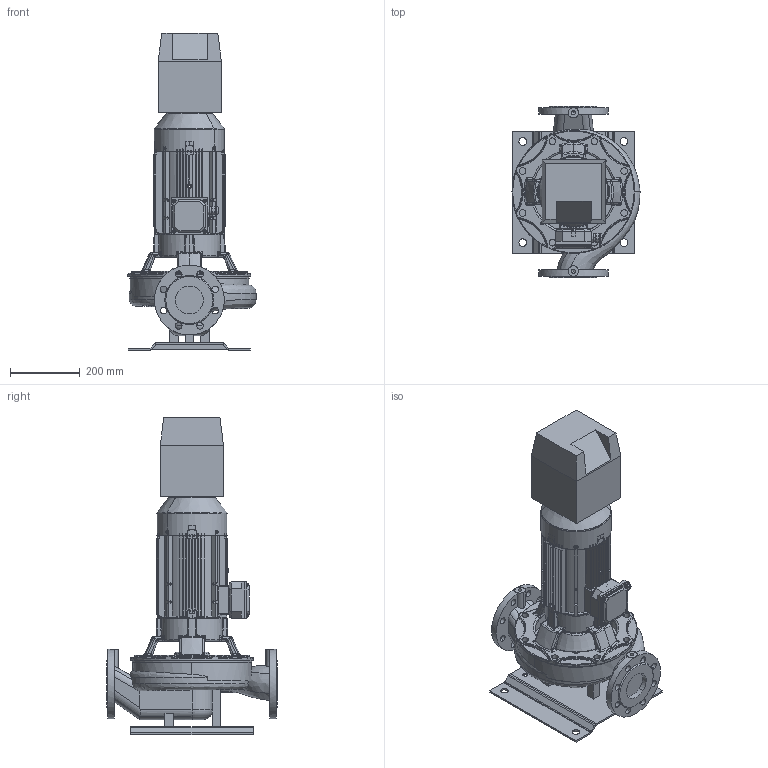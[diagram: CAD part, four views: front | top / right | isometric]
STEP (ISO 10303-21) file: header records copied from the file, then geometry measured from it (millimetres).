
FILE_DESCRIPTION(('STEP AP214'),'1');
FILE_NAME('export.stp','2018-08-08T13:59:02',(' '),(' '),'Spatial InterOp 3D',' ',' ');
FILE_SCHEMA(('AUTOMOTIVE_DESIGN { 1 0 10303 214 1 1 1 1 }'));
Length unit declared in the file: millimetre
Products named in the file (25): W_L80S4NC300KP; V_TLL50S80S; V_PPL80S; P100496; P100495; P100342; 160012; 160010; V_MKP100_2F29; 160141; 160137; 160138; 160139; 160140; Koura_Ale_M5; Plug_Blind_M20; Sealing_Plug_M20; DIN_7985-M5X8; DIN_7985-M5X12; 480041; 480040___; 480043; 480042___; 160136; NC_Size1
Assembly tree (28 placements, depth 4):
  W_L80S4NC300KP
    V_TLL50S80S
    V_PPL80S
    P100496
      P100495  x2
      P100342
    V_MKP100_2F29
      160012
        160010
      160141
        160137
        160138
        160139
        160140
        Koura_Ale_M5
        Plug_Blind_M20
        Sealing_Plug_M20
        DIN_7985-M5X8
        DIN_7985-M5X12  x4
      480041
        480040___
      480043
        480042___
      160136
    NC_Size1
Bounding box: 367 x 490 x 909 mm (x, y, z)
Volume: 20922196.6 mm3; surface area: 2595362.3 mm2
Topology: 22 solids, 22 shells, 2594 faces, 6866 edges, 4309 vertices
Faces by surface type: plane 1061, cylinder 763, bspline 310, torus 258, cone 175, sphere 27
Entity records: 101208 total; most frequent: CARTESIAN_POINT 36587, ORIENTED_EDGE 13300, DIRECTION 12231, EDGE_CURVE 6650, AXIS2_PLACEMENT_3D 4629, VERTEX_POINT 4205, LINE 2973, VECTOR 2973
